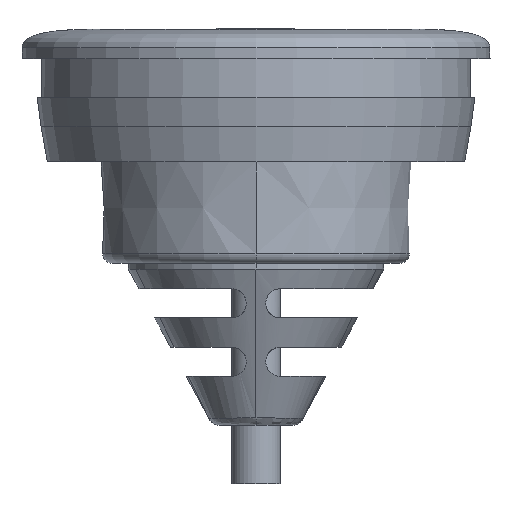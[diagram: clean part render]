
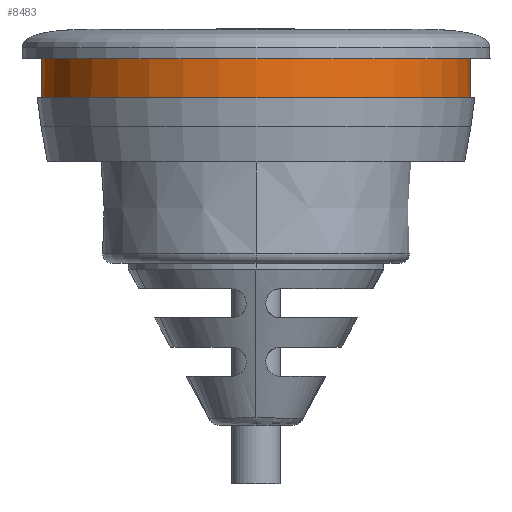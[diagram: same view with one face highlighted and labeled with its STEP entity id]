
A CAD part, left-side view. The second image highlights one B-rep face of the part: STEP entity #8483.
In plain terms, the highlighted conical face has half-angle 1 degrees and reference radius 11.005 mm.
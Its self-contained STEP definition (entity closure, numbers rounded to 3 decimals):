
#1036=DIRECTION('',(0.,0.017,-1.));
#1037=VECTOR('',#1036,2.);
#1038=CARTESIAN_POINT('',(-26.,10.988,0.));
#1039=LINE('',#1038,#1037);
#1050=CARTESIAN_POINT('',(-26.,0.,0.));
#1051=DIRECTION('',(0.,0.,-1.));
#1052=DIRECTION('',(0.,-1.,0.));
#1053=AXIS2_PLACEMENT_3D('',#1050,#1051,#1052);
#1058=DIRECTION('',(0.,-0.017,-1.));
#1059=VECTOR('',#1058,2.);
#1060=CARTESIAN_POINT('',(-26.,-10.988,0.));
#1061=LINE('',#1060,#1059);
#1065=CARTESIAN_POINT('',(-26.,0.,-2.));
#1066=DIRECTION('',(0.,0.,-1.));
#1067=DIRECTION('',(0.,-1.,0.));
#1068=AXIS2_PLACEMENT_3D('',#1065,#1066,#1067);
#6896=CARTESIAN_POINT('',(-26.,-11.023,-2.));
#6897=CARTESIAN_POINT('',(-26.,11.023,-2.));
#6898=VERTEX_POINT('',#6896);
#6899=VERTEX_POINT('',#6897);
#7714=CARTESIAN_POINT('',(-26.,-10.988,0.));
#7715=VERTEX_POINT('',#7714);
#7716=CARTESIAN_POINT('',(-26.,10.988,0.));
#7717=VERTEX_POINT('',#7716);
#8470=CARTESIAN_POINT('',(-26.,0.,-1.));
#8471=DIRECTION('',(0.,0.,-1.));
#8472=DIRECTION('',(-1.,0.,0.));
#8473=AXIS2_PLACEMENT_3D('',#8470,#8471,#8472);
#8474=CONICAL_SURFACE('',#8473,11.005,1.);
#8475=ORIENTED_EDGE('',*,*,#8434,.F.);
#8477=ORIENTED_EDGE('',*,*,#8476,.T.);
#8479=ORIENTED_EDGE('',*,*,#8478,.T.);
#8480=ORIENTED_EDGE('',*,*,#8462,.F.);
#8481=EDGE_LOOP('',(#8475,#8477,#8479,#8480));
#8482=FACE_OUTER_BOUND('',#8481,.F.);
#1054=CIRCLE('',#1053,10.988);
#1069=CIRCLE('',#1068,11.023);
#8434=EDGE_CURVE('',#7715,#7717,#1054,.T.);
#8462=EDGE_CURVE('',#7717,#6899,#1039,.T.);
#8476=EDGE_CURVE('',#7715,#6898,#1061,.T.);
#8478=EDGE_CURVE('',#6898,#6899,#1069,.T.);
#8483=ADVANCED_FACE('',(#8482),#8474,.T.);
